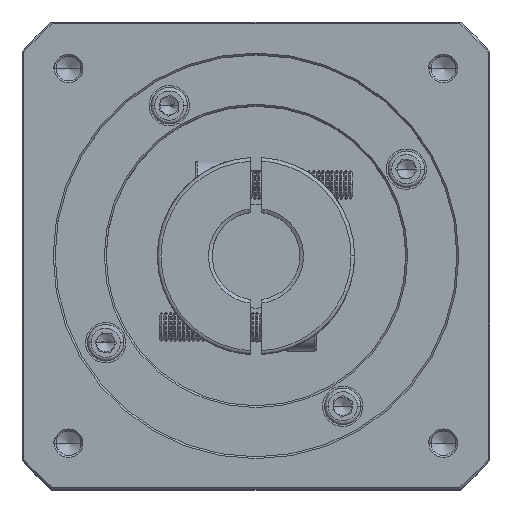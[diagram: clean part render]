
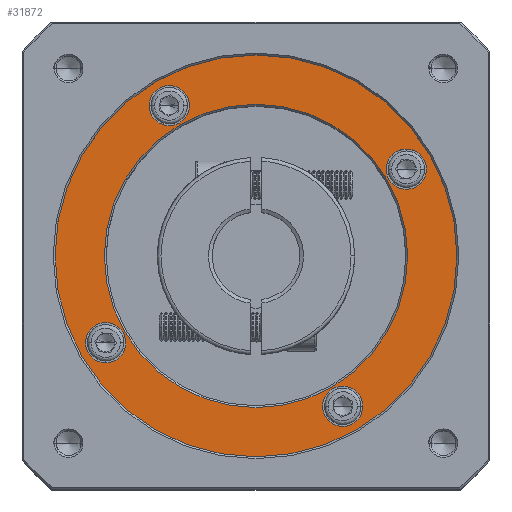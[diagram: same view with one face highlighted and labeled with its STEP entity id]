
A CAD part, top view. The second image highlights one B-rep face of the part: STEP entity #31872.
In plain terms, the highlighted planar face has unit normal (0, 0, 1).
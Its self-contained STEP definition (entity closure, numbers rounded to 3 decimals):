
#1137 = DIRECTION ( 'NONE',  ( 1., 0., 0. ) ) ;
#4335 = EDGE_CURVE ( 'NONE', #65420, #95407, #89588, .T. ) ;
#4392 = CIRCLE ( 'NONE', #115038, 5.5 ) ;
#5329 = CARTESIAN_POINT ( 'NONE',  ( 114.896, 114.42, -0.976 ) ) ;
#7393 = CARTESIAN_POINT ( 'NONE',  ( 106.532, 138.17, -0.976 ) ) ;
#7875 = DIRECTION ( 'NONE',  ( 0., 0., -1. ) ) ;
#9558 = VERTEX_POINT ( 'NONE', #90848 ) ;
#10188 = CARTESIAN_POINT ( 'NONE',  ( 59.896, 114.42, -0.976 ) ) ;
#12304 = ORIENTED_EDGE ( 'NONE', *, *, #104035, .T. ) ;
#12472 = DIRECTION ( 'NONE',  ( 0., 0., -1. ) ) ;
#12893 = ORIENTED_EDGE ( 'NONE', *, *, #25960, .T. ) ;
#13021 = DIRECTION ( 'NONE',  ( 0., 0., 1. ) ) ;
#13371 = VERTEX_POINT ( 'NONE', #24349 ) ;
#15153 = CARTESIAN_POINT ( 'NONE',  ( 78.146, 73.284, -0.976 ) ) ;
#15331 = EDGE_CURVE ( 'NONE', #20889, #9558, #22865, .T. ) ;
#16476 = CARTESIAN_POINT ( 'NONE',  ( 36.146, 155.556, -0.976 ) ) ;
#17005 = CARTESIAN_POINT ( 'NONE',  ( 83.646, 73.284, -0.976 ) ) ;
#17484 = VERTEX_POINT ( 'NONE', #7393 ) ;
#17880 = CARTESIAN_POINT ( 'NONE',  ( 59.896, 114.42, -0.976 ) ) ;
#19642 = DIRECTION ( 'NONE',  ( 0., -1., 0. ) ) ;
#20889 = VERTEX_POINT ( 'NONE', #99224 ) ;
#21665 = AXIS2_PLACEMENT_3D ( 'NONE', #82704, #26635, #92147 ) ;
#21774 = AXIS2_PLACEMENT_3D ( 'NONE', #16476, #81983, #25938 ) ;
#22865 = CIRCLE ( 'NONE', #21774, 5.5 ) ;
#23775 = DIRECTION ( 'NONE',  ( 0., 0., -1. ) ) ;
#24349 = CARTESIAN_POINT ( 'NONE',  ( 59.896, 72.92, -0.976 ) ) ;
#24849 = EDGE_LOOP ( 'NONE', ( #43402, #101350 ) ) ;
#24863 = EDGE_CURVE ( 'NONE', #35483, #48294, #72503, .T. ) ;
#25801 = AXIS2_PLACEMENT_3D ( 'NONE', #69103, #13021, #78466 ) ;
#25938 = DIRECTION ( 'NONE',  ( 1., 0., 0. ) ) ;
#25960 = EDGE_CURVE ( 'NONE', #17484, #41045, #78032, .T. ) ;
#26470 = DIRECTION ( 'NONE',  ( 1., 0., 0. ) ) ;
#26486 = EDGE_LOOP ( 'NONE', ( #39551, #104525 ) ) ;
#26635 = DIRECTION ( 'NONE',  ( 0., 0., -1. ) ) ;
#27320 = DIRECTION ( 'NONE',  ( 1., 0., 0. ) ) ;
#28361 = AXIS2_PLACEMENT_3D ( 'NONE', #17880, #83398, #27320 ) ;
#30627 = EDGE_CURVE ( 'NONE', #9558, #20889, #70810, .T. ) ;
#31461 = PLANE ( 'NONE',  #25801 ) ;
#31872 = ADVANCED_FACE ( 'NONE', ( #49742, #74601, #96624, #102432, #71636, #46814 ), #31461, .T. ) ;
#32900 = EDGE_CURVE ( 'NONE', #95407, #65420, #71330, .T. ) ;
#33936 = AXIS2_PLACEMENT_3D ( 'NONE', #79801, #23775, #89288 ) ;
#35425 = CARTESIAN_POINT ( 'NONE',  ( 36.146, 155.556, -0.976 ) ) ;
#35483 = VERTEX_POINT ( 'NONE', #62949 ) ;
#39551 = ORIENTED_EDGE ( 'NONE', *, *, #69426, .T. ) ;
#41045 = VERTEX_POINT ( 'NONE', #85119 ) ;
#41239 = AXIS2_PLACEMENT_3D ( 'NONE', #41806, #107285, #51244 ) ;
#41806 = CARTESIAN_POINT ( 'NONE',  ( 101.032, 138.17, -0.976 ) ) ;
#43402 = ORIENTED_EDGE ( 'NONE', *, *, #4335, .T. ) ;
#44838 = DIRECTION ( 'NONE',  ( 1., 0., 0. ) ) ;
#45242 = CARTESIAN_POINT ( 'NONE',  ( 4.896, 114.42, -0.976 ) ) ;
#45429 = CIRCLE ( 'NONE', #50923, 5.5 ) ;
#46814 = FACE_BOUND ( 'NONE', #26486, .T. ) ;
#47074 = EDGE_LOOP ( 'NONE', ( #72498, #12304 ) ) ;
#47795 = VERTEX_POINT ( 'NONE', #120865 ) ;
#48294 = VERTEX_POINT ( 'NONE', #15153 ) ;
#48372 = CIRCLE ( 'NONE', #33936, 5.5 ) ;
#49742 = FACE_OUTER_BOUND ( 'NONE', #24849, .T. ) ;
#50923 = AXIS2_PLACEMENT_3D ( 'NONE', #64006, #7875, #73420 ) ;
#51060 = DIRECTION ( 'NONE',  ( 0., 0., 1. ) ) ;
#51244 = DIRECTION ( 'NONE',  ( 1., 0., 0. ) ) ;
#54036 = EDGE_CURVE ( 'NONE', #13371, #113646, #76902, .T. ) ;
#57347 = DIRECTION ( 'NONE',  ( 0., 0., -1. ) ) ;
#61463 = AXIS2_PLACEMENT_3D ( 'NONE', #17005, #82525, #26470 ) ;
#62949 = CARTESIAN_POINT ( 'NONE',  ( 89.146, 73.284, -0.976 ) ) ;
#63681 = CARTESIAN_POINT ( 'NONE',  ( 24.26, 90.67, -0.976 ) ) ;
#64006 = CARTESIAN_POINT ( 'NONE',  ( 83.646, 73.284, -0.976 ) ) ;
#64511 = EDGE_LOOP ( 'NONE', ( #87893, #114577 ) ) ;
#64827 = CIRCLE ( 'NONE', #21665, 41.5 ) ;
#65420 = VERTEX_POINT ( 'NONE', #5329 ) ;
#68565 = CARTESIAN_POINT ( 'NONE',  ( 18.76, 90.67, -0.976 ) ) ;
#69103 = CARTESIAN_POINT ( 'NONE',  ( 59.896, 114.42, -0.976 ) ) ;
#69426 = EDGE_CURVE ( 'NONE', #101139, #47795, #101388, .T. ) ;
#70810 = CIRCLE ( 'NONE', #113981, 5.5 ) ;
#71330 = CIRCLE ( 'NONE', #95746, 55. ) ;
#71636 = FACE_BOUND ( 'NONE', #47074, .T. ) ;
#72498 = ORIENTED_EDGE ( 'NONE', *, *, #24863, .T. ) ;
#72503 = CIRCLE ( 'NONE', #61463, 5.5 ) ;
#72774 = AXIS2_PLACEMENT_3D ( 'NONE', #10188, #75711, #19642 ) ;
#73420 = DIRECTION ( 'NONE',  ( 1., 0., 0. ) ) ;
#74601 = FACE_BOUND ( 'NONE', #64511, .T. ) ;
#74945 = EDGE_CURVE ( 'NONE', #41045, #17484, #48372, .T. ) ;
#75711 = DIRECTION ( 'NONE',  ( 0., 0., -1. ) ) ;
#76902 = CIRCLE ( 'NONE', #72774, 41.5 ) ;
#77933 = DIRECTION ( 'NONE',  ( 1., 0., 0. ) ) ;
#78032 = CIRCLE ( 'NONE', #41239, 5.5 ) ;
#78466 = DIRECTION ( 'NONE',  ( 1., 0., 0. ) ) ;
#79801 = CARTESIAN_POINT ( 'NONE',  ( 101.032, 138.17, -0.976 ) ) ;
#80706 = EDGE_LOOP ( 'NONE', ( #81801, #83123 ) ) ;
#81801 = ORIENTED_EDGE ( 'NONE', *, *, #15331, .T. ) ;
#81983 = DIRECTION ( 'NONE',  ( 0., 0., -1. ) ) ;
#82525 = DIRECTION ( 'NONE',  ( 0., 0., -1. ) ) ;
#82704 = CARTESIAN_POINT ( 'NONE',  ( 59.896, 114.42, -0.976 ) ) ;
#83123 = ORIENTED_EDGE ( 'NONE', *, *, #30627, .T. ) ;
#83398 = DIRECTION ( 'NONE',  ( 0., 0., 1. ) ) ;
#85119 = CARTESIAN_POINT ( 'NONE',  ( 95.532, 138.17, -0.976 ) ) ;
#86961 = ORIENTED_EDGE ( 'NONE', *, *, #74945, .T. ) ;
#87893 = ORIENTED_EDGE ( 'NONE', *, *, #54036, .T. ) ;
#89288 = DIRECTION ( 'NONE',  ( 1., 0., 0. ) ) ;
#89588 = CIRCLE ( 'NONE', #28361, 55. ) ;
#90535 = EDGE_CURVE ( 'NONE', #113646, #13371, #64827, .T. ) ;
#90848 = CARTESIAN_POINT ( 'NONE',  ( 30.646, 155.556, -0.976 ) ) ;
#91135 = EDGE_CURVE ( 'NONE', #47795, #101139, #4392, .T. ) ;
#92147 = DIRECTION ( 'NONE',  ( 0., -1., 0. ) ) ;
#93906 = EDGE_LOOP ( 'NONE', ( #12893, #86961 ) ) ;
#95407 = VERTEX_POINT ( 'NONE', #45242 ) ;
#95746 = AXIS2_PLACEMENT_3D ( 'NONE', #107102, #51060, #116478 ) ;
#96624 = FACE_BOUND ( 'NONE', #93906, .T. ) ;
#99224 = CARTESIAN_POINT ( 'NONE',  ( 41.646, 155.556, -0.976 ) ) ;
#100880 = DIRECTION ( 'NONE',  ( 0., 0., -1. ) ) ;
#101139 = VERTEX_POINT ( 'NONE', #63681 ) ;
#101350 = ORIENTED_EDGE ( 'NONE', *, *, #32900, .T. ) ;
#101388 = CIRCLE ( 'NONE', #116394, 5.5 ) ;
#102432 = FACE_BOUND ( 'NONE', #80706, .T. ) ;
#104035 = EDGE_CURVE ( 'NONE', #48294, #35483, #45429, .T. ) ;
#104525 = ORIENTED_EDGE ( 'NONE', *, *, #91135, .T. ) ;
#107102 = CARTESIAN_POINT ( 'NONE',  ( 59.896, 114.42, -0.976 ) ) ;
#107285 = DIRECTION ( 'NONE',  ( 0., 0., -1. ) ) ;
#113344 = CARTESIAN_POINT ( 'NONE',  ( 18.76, 90.67, -0.976 ) ) ;
#113646 = VERTEX_POINT ( 'NONE', #117448 ) ;
#113981 = AXIS2_PLACEMENT_3D ( 'NONE', #35425, #100880, #44838 ) ;
#114577 = ORIENTED_EDGE ( 'NONE', *, *, #90535, .T. ) ;
#115038 = AXIS2_PLACEMENT_3D ( 'NONE', #113344, #57347, #1137 ) ;
#116394 = AXIS2_PLACEMENT_3D ( 'NONE', #68565, #12472, #77933 ) ;
#116478 = DIRECTION ( 'NONE',  ( 1., 0., 0. ) ) ;
#117448 = CARTESIAN_POINT ( 'NONE',  ( 59.896, 155.92, -0.976 ) ) ;
#120865 = CARTESIAN_POINT ( 'NONE',  ( 13.26, 90.67, -0.976 ) ) ;
